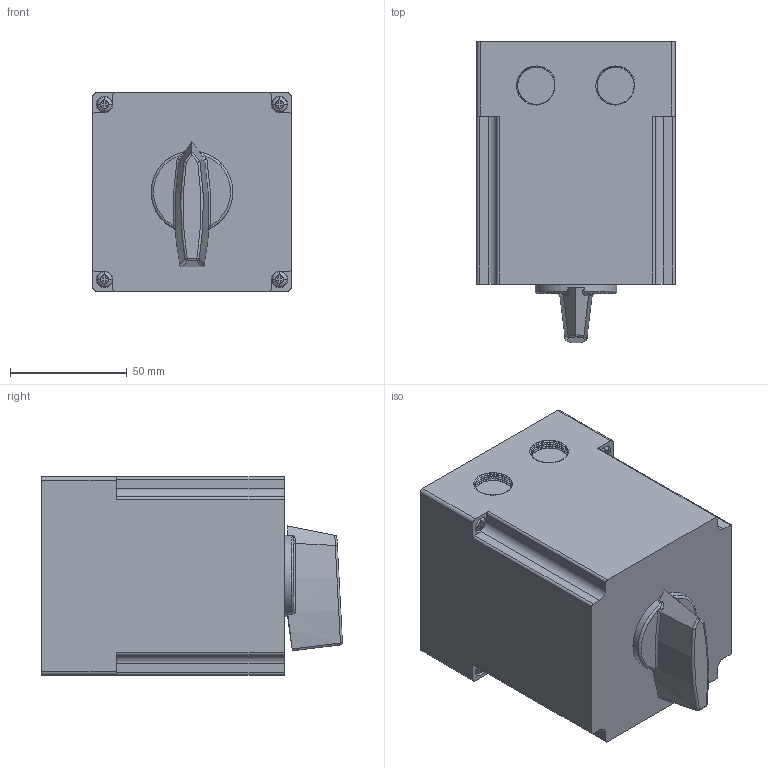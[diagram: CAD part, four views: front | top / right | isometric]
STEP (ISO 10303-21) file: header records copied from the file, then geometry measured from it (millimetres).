
FILE_DESCRIPTION(/* description */ (''),/* implementation_level */ '2;1');
FILE_NAME(/* name */ '4G16,25-PK_IP55_3_lub_4_korpusy.stp',/* time_stamp */ '2021-07-22T08:20:33+02:00',/* author */ (''),/* organization */ (''),/* preprocessor_version */ 'ST-DEVELOPER v18.1',/* originating_system */ 'SIEMENS PLM Software NX 1965',/* authorisation */ '');
FILE_SCHEMA (('AUTOMOTIVE_DESIGN { 1 0 10303 214 3 1 1 1 }'));
Length unit declared in the file: millimetre
Products named in the file (1): 4G16,25-PK_IP55_3_lub_4_korpusy_stp
Bounding box: 85 x 128.95 x 85 mm (x, y, z)
Volume: 741124.2 mm3; surface area: 54161.8 mm2
Topology: 1 solids, 5 shells, 256 faces, 695 edges, 452 vertices
Faces by surface type: plane 101, cylinder 99, bspline 39, cone 9, torus 6, sphere 2
Full cylindrical faces by diameter (mm): 2.9 x24, 3.5 x4, 4.3 x4, 7 x4, 16 x16, 35 x1
Entity records: 16135 total; most frequent: CARTESIAN_POINT 11303, ORIENTED_EDGE 1032, DIRECTION 871, EDGE_CURVE 516, VERTEX_POINT 352, AXIS2_PLACEMENT_3D 343, EDGE_LOOP 270, ADVANCED_FACE 220
